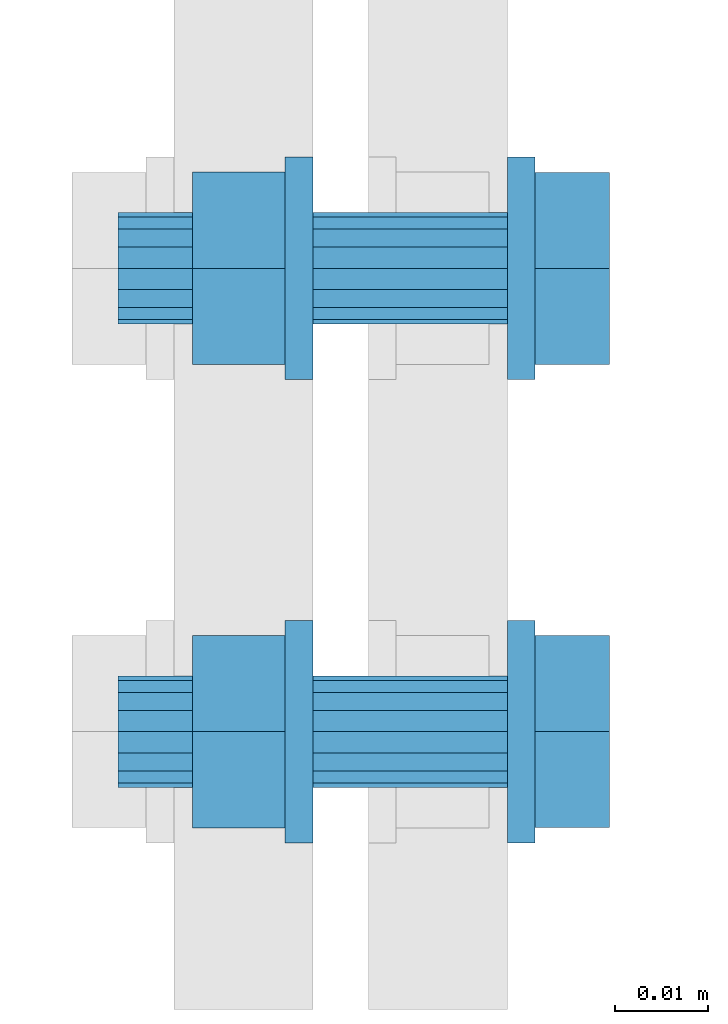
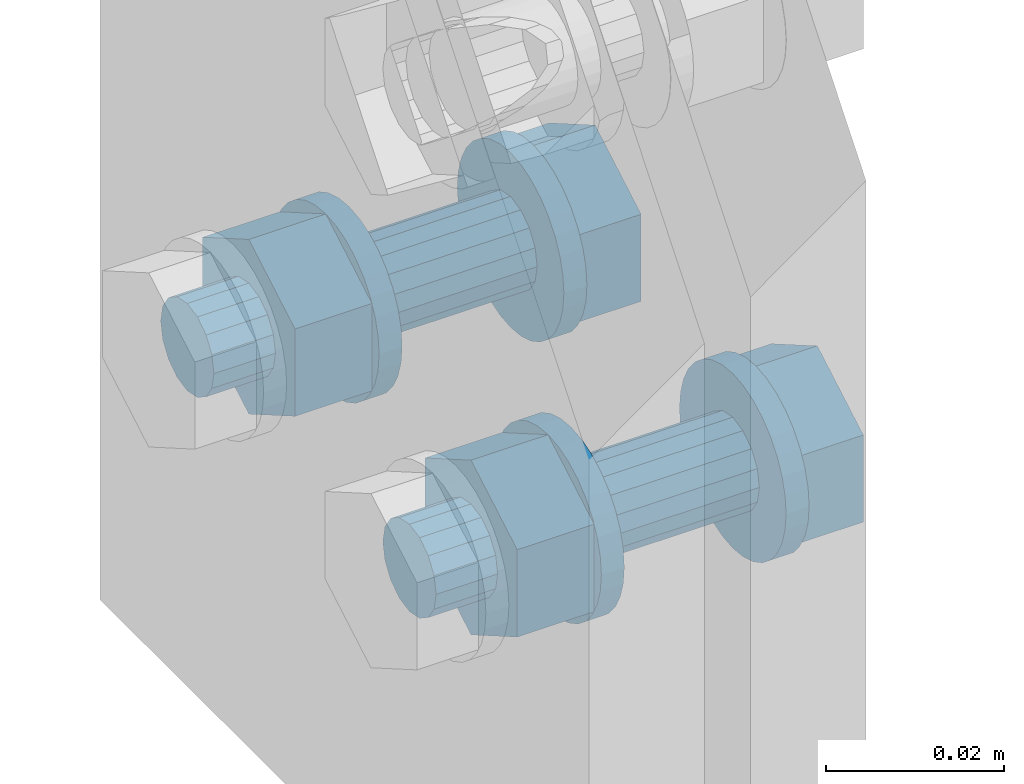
# One storey, part 7 of 13: 2 mechanical fasteners.
"""IFC4X3_ADD2 building model written with IfcOpenShell, lengths in millimetres."""

from ifc_helpers import new_model, entity, si_unit, converted_unit, derived_unit, direction, origin, place, context, project, spatial, faceted_brep, element, save


model = new_model("IFC4X3_ADD2")

# Units and contexts
model_context = context("Model", 3, precision=0.01, world=origin(), true_north=direction((6.123233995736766e-17, 1.0)))
plan_context = context("Plan", 3, precision=0.01, world=origin(), true_north=direction((6.123233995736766e-17, 1.0)))
ifc_project = project(units=[si_unit("LENGTHUNIT", "METRE", prefix="MILLI"), converted_unit("PLANEANGLEUNIT", "DEGREE", entity("IfcPlaneAngleMeasure", 0.017453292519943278), si_unit("PLANEANGLEUNIT", "RADIAN"), dimensions=[0, 0, 0, 0, 0, 0, 0]), si_unit("AREAUNIT", "SQUARE_METRE"), si_unit("VOLUMEUNIT", "CUBIC_METRE"), derived_unit("THERMALTRANSMITTANCEUNIT", [(si_unit("MASSUNIT", "GRAM", prefix="KILO"), 1), (si_unit("THERMODYNAMICTEMPERATUREUNIT", "KELVIN"), -1), (si_unit("TIMEUNIT", "SECOND"), -3)]), derived_unit("USERDEFINED", [(si_unit("MASSUNIT", "GRAM", prefix="KILO"), 1), (si_unit("THERMODYNAMICTEMPERATUREUNIT", "KELVIN"), -1), (si_unit("TIMEUNIT", "SECOND"), -2)]), derived_unit("THERMALRESISTANCEUNIT", [(si_unit("MASSUNIT", "GRAM", prefix="KILO"), -1), (si_unit("TIMEUNIT", "SECOND"), 3), (si_unit("THERMODYNAMICTEMPERATUREUNIT", "KELVIN"), 1)]), si_unit("MASSUNIT", "GRAM", prefix="KILO"), derived_unit("MOMENTOFINERTIAUNIT", [(si_unit("LENGTHUNIT", "METRE"), 4)]), derived_unit("LINEARFORCEUNIT", [(si_unit("MASSUNIT", "GRAM", prefix="KILO"), 1), (si_unit("TIMEUNIT", "SECOND"), -2)]), derived_unit("WARPINGCONSTANTUNIT", [(si_unit("LENGTHUNIT", "METRE"), 6)]), si_unit("PRESSUREUNIT", "PASCAL"), derived_unit("MASSDENSITYUNIT", [(si_unit("MASSUNIT", "GRAM", prefix="KILO"), 1), (si_unit("LENGTHUNIT", "METRE"), -3)]), derived_unit("MODULUSOFELASTICITYUNIT", [(si_unit("MASSUNIT", "GRAM", prefix="KILO"), 1), (si_unit("TIMEUNIT", "SECOND"), -2), (si_unit("LENGTHUNIT", "METRE"), -1)]), derived_unit("THERMALEXPANSIONCOEFFICIENTUNIT", [(si_unit("THERMODYNAMICTEMPERATUREUNIT", "KELVIN"), -1)]), derived_unit("VAPORPERMEABILITYUNIT", [(si_unit("LENGTHUNIT", "METRE"), -1), (si_unit("TIMEUNIT", "SECOND"), 1)]), derived_unit("USERDEFINED", [(si_unit("MASSUNIT", "GRAM", prefix="KILO"), 1), (si_unit("TIMEUNIT", "SECOND"), -3), (si_unit("LENGTHUNIT", "METRE"), 3), (si_unit("ELECTRICCURRENTUNIT", "AMPERE"), -2)]), derived_unit("SPECIFICHEATCAPACITYUNIT", [(si_unit("THERMODYNAMICTEMPERATUREUNIT", "KELVIN"), -1), (si_unit("TIMEUNIT", "SECOND"), -2), (si_unit("LENGTHUNIT", "METRE"), 2)]), derived_unit("THERMALCONDUCTANCEUNIT", [(si_unit("MASSUNIT", "GRAM", prefix="KILO"), 1), (si_unit("THERMODYNAMICTEMPERATUREUNIT", "KELVIN"), -1), (si_unit("TIMEUNIT", "SECOND"), -3), (si_unit("LENGTHUNIT", "METRE"), 1)])], contexts=[model_context, plan_context])

# Site, building, storey
site_placement = place(None, origin())
site = spatial("IfcSite", under=ifc_project, at=site_placement, Name="Default", CompositionType="ELEMENT")
building_placement = place(site_placement, origin())
building = spatial("IfcBuilding", under=site, at=building_placement, Name="Complex structure", CompositionType="ELEMENT")
storey_placement = place(building_placement, origin())
storey = spatial("IfcBuildingStorey", under=building, at=storey_placement, Name="Level 00", CompositionType="ELEMENT", Elevation=0.0)

# Mechanical fasteners
mechanical_fastener_1_placement = place(storey_placement, origin())
element("IfcMechanicalFastener", 1, at=mechanical_fastener_1_placement, inside=storey, ObjectType="Bolt#5", NominalDiameter=12.0, NominalLength=45.0, context=model_context, shape_type="Brep", body=[
    faceted_brep([(-9124.221550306, -1269.866703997, 2900.0), (-9127.221550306, -1269.866703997, 2900.0), (-9127.221550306, -1269.636127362, 2897.658916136), (-9124.221550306, -1269.636127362, 2897.658916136), (-9127.221550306, -1268.953258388, 2895.407798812), (-9124.221550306, -1268.953258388, 2895.407798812), (-9127.221550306, -1267.844339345, 2893.333157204), (-9124.221550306, -1267.844339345, 2893.333157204), (-9127.221550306, -1266.351985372, 2891.514718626), (-9124.221550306, -1266.351985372, 2891.514718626), (-9127.221550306, -1264.533546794, 2890.022364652), (-9124.221550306, -1264.533546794, 2890.022364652), (-9127.221550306, -1262.458905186, 2888.91344561), (-9124.221550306, -1262.458905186, 2888.91344561), (-9127.221550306, -1260.207787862, 2888.230576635), (-9124.221550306, -1260.207787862, 2888.230576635), (-9127.221550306, -1257.866703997, 2888.0), (-9124.221550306, -1257.866703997, 2888.0), (-9127.221550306, -1255.525620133, 2888.230576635), (-9124.221550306, -1255.525620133, 2888.230576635), (-9127.221550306, -1253.274502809, 2888.91344561), (-9124.221550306, -1253.274502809, 2888.91344561), (-9127.221550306, -1251.199861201, 2890.022364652), (-9124.221550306, -1251.199861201, 2890.022364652), (-9127.221550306, -1249.381422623, 2891.514718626), (-9124.221550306, -1249.381422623, 2891.514718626), (-9127.221550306, -1247.88906865, 2893.333157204), (-9124.221550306, -1247.88906865, 2893.333157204), (-9127.221550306, -1246.780149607, 2895.407798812), (-9124.221550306, -1246.780149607, 2895.407798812), (-9127.221550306, -1246.097280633, 2897.658916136), (-9124.221550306, -1246.097280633, 2897.658916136), (-9127.221550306, -1245.866703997, 2900.0), (-9124.221550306, -1245.866703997, 2900.0), (-9127.221550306, -1246.097280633, 2902.341083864), (-9124.221550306, -1246.097280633, 2902.341083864), (-9127.221550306, -1246.780149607, 2904.592201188), (-9124.221550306, -1246.780149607, 2904.592201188), (-9127.221550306, -1247.88906865, 2906.666842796), (-9124.221550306, -1247.88906865, 2906.666842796), (-9127.221550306, -1249.381422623, 2908.485281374), (-9124.221550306, -1249.381422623, 2908.485281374), (-9127.221550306, -1251.199861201, 2909.977635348), (-9124.221550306, -1251.199861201, 2909.977635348), (-9127.221550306, -1253.274502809, 2911.08655439), (-9124.221550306, -1253.274502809, 2911.08655439), (-9127.221550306, -1255.525620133, 2911.769423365), (-9124.221550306, -1255.525620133, 2911.769423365), (-9127.221550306, -1257.866703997, 2912.0), (-9124.221550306, -1257.866703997, 2912.0), (-9127.221550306, -1260.207787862, 2911.769423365), (-9124.221550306, -1260.207787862, 2911.769423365), (-9127.221550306, -1262.458905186, 2911.08655439), (-9124.221550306, -1262.458905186, 2911.08655439), (-9127.221550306, -1264.533546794, 2909.977635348), (-9124.221550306, -1264.533546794, 2909.977635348), (-9127.221550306, -1266.351985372, 2908.485281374), (-9124.221550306, -1266.351985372, 2908.485281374), (-9127.221550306, -1267.844339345, 2906.666842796), (-9124.221550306, -1267.844339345, 2906.666842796), (-9127.221550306, -1268.953258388, 2904.592201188), (-9124.221550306, -1268.953258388, 2904.592201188), (-9127.221550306, -1269.636127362, 2902.341083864), (-9124.221550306, -1269.636127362, 2902.341083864)], [[[0, 1, 2, 3]], [[3, 2, 4, 5]], [[5, 4, 6, 7]], [[7, 6, 8, 9]], [[9, 8, 10, 11]], [[11, 10, 12, 13]], [[13, 12, 14, 15]], [[15, 14, 16, 17]], [[17, 16, 18, 19]], [[19, 18, 20, 21]], [[21, 20, 22, 23]], [[23, 22, 24, 25]], [[25, 24, 26, 27]], [[27, 26, 28, 29]], [[29, 28, 30, 31]], [[31, 30, 32, 33]], [[33, 32, 34, 35]], [[35, 34, 36, 37]], [[37, 36, 38, 39]], [[39, 38, 40, 41]], [[41, 40, 42, 43]], [[43, 42, 44, 45]], [[45, 44, 46, 47]], [[47, 46, 48, 49]], [[49, 48, 50, 51]], [[51, 50, 52, 53]], [[53, 52, 54, 55]], [[55, 54, 56, 57]], [[57, 56, 58, 59]], [[59, 58, 60, 61]], [[61, 60, 62, 63]], [[63, 62, 1, 0]], [[0, 3, 5, 7, 9, 11, 13, 15, 17, 19, 21, 23, 25, 27, 29, 31, 33, 35, 37, 39, 41, 43, 45, 47, 49, 51, 53, 55, 57, 59, 61, 63]], [[1, 62, 60, 58, 56, 54, 52, 50, 48, 46, 44, 42, 40, 38, 36, 34, 32, 30, 28, 26, 24, 22, 20, 18, 16, 14, 12, 10, 8, 6, 4, 2]]]),
    faceted_brep([(-9124.221550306, -1247.513370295, 2894.0225), (-9116.221550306, -1247.513370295, 2894.0225), (-9116.221550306, -1257.866703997, 2888.045), (-9124.221550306, -1257.866703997, 2888.045), (-9116.221550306, -1268.2200377, 2894.0225), (-9124.221550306, -1268.2200377, 2894.0225), (-9116.221550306, -1268.2200377, 2905.9775), (-9124.221550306, -1268.2200377, 2905.9775), (-9116.221550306, -1257.866703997, 2911.955), (-9124.221550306, -1257.866703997, 2911.955), (-9116.221550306, -1247.513370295, 2905.9775), (-9124.221550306, -1247.513370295, 2905.9775)], [[[0, 1, 2, 3]], [[3, 2, 4, 5]], [[5, 4, 6, 7]], [[7, 6, 8, 9]], [[9, 8, 10, 11]], [[11, 10, 1, 0]], [[4, 2, 1, 10, 8, 6]], [[0, 3, 5, 7, 9, 11]]]),
    faceted_brep([(-9127.221550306, -1263.866703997, 2900.0), (-9148.221550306, -1263.866703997, 2900.0), (-9148.221550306, -1263.409981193, 2897.703899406), (-9127.221550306, -1263.409981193, 2897.703899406), (-9148.221550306, -1262.109344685, 2895.757359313), (-9127.221550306, -1262.109344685, 2895.757359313), (-9148.221550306, -1260.162804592, 2894.456722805), (-9127.221550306, -1260.162804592, 2894.456722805), (-9148.221550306, -1257.866703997, 2894.0), (-9127.221550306, -1257.866703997, 2894.0), (-9148.221550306, -1255.570603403, 2894.456722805), (-9127.221550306, -1255.570603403, 2894.456722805), (-9148.221550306, -1253.62406331, 2895.757359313), (-9127.221550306, -1253.62406331, 2895.757359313), (-9148.221550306, -1252.323426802, 2897.703899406), (-9127.221550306, -1252.323426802, 2897.703899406), (-9148.221550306, -1251.866703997, 2900.0), (-9127.221550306, -1251.866703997, 2900.0), (-9148.221550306, -1252.323426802, 2902.296100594), (-9127.221550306, -1252.323426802, 2902.296100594), (-9148.221550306, -1253.62406331, 2904.242640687), (-9127.221550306, -1253.62406331, 2904.242640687), (-9148.221550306, -1255.570603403, 2905.543277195), (-9127.221550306, -1255.570603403, 2905.543277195), (-9148.221550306, -1257.866703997, 2906.0), (-9127.221550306, -1257.866703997, 2906.0), (-9148.221550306, -1260.162804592, 2905.543277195), (-9127.221550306, -1260.162804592, 2905.543277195), (-9148.221550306, -1262.109344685, 2904.242640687), (-9127.221550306, -1262.109344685, 2904.242640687), (-9148.221550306, -1263.409981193, 2902.296100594), (-9127.221550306, -1263.409981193, 2902.296100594)], [[[0, 1, 2, 3]], [[3, 2, 4, 5]], [[5, 4, 6, 7]], [[7, 6, 8, 9]], [[9, 8, 10, 11]], [[11, 10, 12, 13]], [[13, 12, 14, 15]], [[15, 14, 16, 17]], [[17, 16, 18, 19]], [[19, 18, 20, 21]], [[21, 20, 22, 23]], [[23, 22, 24, 25]], [[25, 24, 26, 27]], [[27, 26, 28, 29]], [[29, 28, 30, 31]], [[31, 30, 1, 0]], [[0, 3, 5, 7, 9, 11, 13, 15, 17, 19, 21, 23, 25, 27, 29, 31]], [[1, 30, 28, 26, 24, 22, 20, 18, 16, 14, 12, 10, 8, 6, 4, 2]]]),
    faceted_brep([(-9148.221550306, -1269.866703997, 2900.0), (-9151.221550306, -1269.866703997, 2900.0), (-9151.221550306, -1269.636127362, 2897.658916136), (-9148.221550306, -1269.636127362, 2897.658916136), (-9151.221550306, -1268.953258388, 2895.407798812), (-9148.221550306, -1268.953258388, 2895.407798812), (-9151.221550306, -1267.844339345, 2893.333157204), (-9148.221550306, -1267.844339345, 2893.333157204), (-9151.221550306, -1266.351985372, 2891.514718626), (-9148.221550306, -1266.351985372, 2891.514718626), (-9151.221550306, -1264.533546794, 2890.022364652), (-9148.221550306, -1264.533546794, 2890.022364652), (-9151.221550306, -1262.458905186, 2888.91344561), (-9148.221550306, -1262.458905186, 2888.91344561), (-9151.221550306, -1260.207787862, 2888.230576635), (-9148.221550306, -1260.207787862, 2888.230576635), (-9151.221550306, -1257.866703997, 2888.0), (-9148.221550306, -1257.866703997, 2888.0), (-9151.221550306, -1255.525620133, 2888.230576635), (-9148.221550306, -1255.525620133, 2888.230576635), (-9151.221550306, -1253.274502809, 2888.91344561), (-9148.221550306, -1253.274502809, 2888.91344561), (-9151.221550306, -1251.199861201, 2890.022364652), (-9148.221550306, -1251.199861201, 2890.022364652), (-9151.221550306, -1249.381422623, 2891.514718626), (-9148.221550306, -1249.381422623, 2891.514718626), (-9151.221550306, -1247.88906865, 2893.333157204), (-9148.221550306, -1247.88906865, 2893.333157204), (-9151.221550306, -1246.780149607, 2895.407798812), (-9148.221550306, -1246.780149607, 2895.407798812), (-9151.221550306, -1246.097280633, 2897.658916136), (-9148.221550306, -1246.097280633, 2897.658916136), (-9151.221550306, -1245.866703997, 2900.0), (-9148.221550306, -1245.866703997, 2900.0), (-9151.221550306, -1246.097280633, 2902.341083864), (-9148.221550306, -1246.097280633, 2902.341083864), (-9151.221550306, -1246.780149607, 2904.592201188), (-9148.221550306, -1246.780149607, 2904.592201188), (-9151.221550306, -1247.88906865, 2906.666842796), (-9148.221550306, -1247.88906865, 2906.666842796), (-9151.221550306, -1249.381422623, 2908.485281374), (-9148.221550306, -1249.381422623, 2908.485281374), (-9151.221550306, -1251.199861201, 2909.977635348), (-9148.221550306, -1251.199861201, 2909.977635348), (-9151.221550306, -1253.274502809, 2911.08655439), (-9148.221550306, -1253.274502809, 2911.08655439), (-9151.221550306, -1255.525620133, 2911.769423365), (-9148.221550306, -1255.525620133, 2911.769423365), (-9151.221550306, -1257.866703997, 2912.0), (-9148.221550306, -1257.866703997, 2912.0), (-9151.221550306, -1260.207787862, 2911.769423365), (-9148.221550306, -1260.207787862, 2911.769423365), (-9151.221550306, -1262.458905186, 2911.08655439), (-9148.221550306, -1262.458905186, 2911.08655439), (-9151.221550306, -1264.533546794, 2909.977635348), (-9148.221550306, -1264.533546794, 2909.977635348), (-9151.221550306, -1266.351985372, 2908.485281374), (-9148.221550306, -1266.351985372, 2908.485281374), (-9151.221550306, -1267.844339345, 2906.666842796), (-9148.221550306, -1267.844339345, 2906.666842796), (-9151.221550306, -1268.953258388, 2904.592201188), (-9148.221550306, -1268.953258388, 2904.592201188), (-9151.221550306, -1269.636127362, 2902.341083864), (-9148.221550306, -1269.636127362, 2902.341083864)], [[[0, 1, 2, 3]], [[3, 2, 4, 5]], [[5, 4, 6, 7]], [[7, 6, 8, 9]], [[9, 8, 10, 11]], [[11, 10, 12, 13]], [[13, 12, 14, 15]], [[15, 14, 16, 17]], [[17, 16, 18, 19]], [[19, 18, 20, 21]], [[21, 20, 22, 23]], [[23, 22, 24, 25]], [[25, 24, 26, 27]], [[27, 26, 28, 29]], [[29, 28, 30, 31]], [[31, 30, 32, 33]], [[33, 32, 34, 35]], [[35, 34, 36, 37]], [[37, 36, 38, 39]], [[39, 38, 40, 41]], [[41, 40, 42, 43]], [[43, 42, 44, 45]], [[45, 44, 46, 47]], [[47, 46, 48, 49]], [[49, 48, 50, 51]], [[51, 50, 52, 53]], [[53, 52, 54, 55]], [[55, 54, 56, 57]], [[57, 56, 58, 59]], [[59, 58, 60, 61]], [[61, 60, 62, 63]], [[63, 62, 1, 0]], [[0, 3, 5, 7, 9, 11, 13, 15, 17, 19, 21, 23, 25, 27, 29, 31, 33, 35, 37, 39, 41, 43, 45, 47, 49, 51, 53, 55, 57, 59, 61, 63]], [[1, 62, 60, 58, 56, 54, 52, 50, 48, 46, 44, 42, 40, 38, 36, 34, 32, 30, 28, 26, 24, 22, 20, 18, 16, 14, 12, 10, 8, 6, 4, 2]]]),
    faceted_brep([(-9161.221550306, -1247.474399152, 2894.0), (-9151.221550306, -1247.474399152, 2894.0), (-9151.221550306, -1257.866703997, 2888.0), (-9161.221550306, -1257.866703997, 2888.0), (-9151.221550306, -1268.259008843, 2894.0), (-9161.221550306, -1268.259008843, 2894.0), (-9151.221550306, -1268.259008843, 2906.0), (-9161.221550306, -1268.259008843, 2906.0), (-9151.221550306, -1257.866703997, 2912.0), (-9161.221550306, -1257.866703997, 2912.0), (-9151.221550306, -1247.474399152, 2906.0), (-9161.221550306, -1247.474399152, 2906.0)], [[[0, 1, 2, 3]], [[3, 2, 4, 5]], [[5, 4, 6, 7]], [[7, 6, 8, 9]], [[9, 8, 10, 11]], [[11, 10, 1, 0]], [[4, 2, 1, 10, 8, 6]], [[0, 3, 5, 7, 9, 11]]]),
    faceted_brep([(-9161.221550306, -1263.866703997, 2900.0), (-9169.221550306, -1263.866703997, 2900.0), (-9169.221550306, -1263.409981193, 2897.703899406), (-9161.221550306, -1263.409981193, 2897.703899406), (-9169.221550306, -1262.109344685, 2895.757359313), (-9161.221550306, -1262.109344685, 2895.757359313), (-9169.221550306, -1260.162804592, 2894.456722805), (-9161.221550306, -1260.162804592, 2894.456722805), (-9169.221550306, -1257.866703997, 2894.0), (-9161.221550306, -1257.866703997, 2894.0), (-9169.221550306, -1255.570603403, 2894.456722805), (-9161.221550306, -1255.570603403, 2894.456722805), (-9169.221550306, -1253.62406331, 2895.757359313), (-9161.221550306, -1253.62406331, 2895.757359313), (-9169.221550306, -1252.323426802, 2897.703899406), (-9161.221550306, -1252.323426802, 2897.703899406), (-9169.221550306, -1251.866703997, 2900.0), (-9161.221550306, -1251.866703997, 2900.0), (-9169.221550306, -1252.323426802, 2902.296100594), (-9161.221550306, -1252.323426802, 2902.296100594), (-9169.221550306, -1253.62406331, 2904.242640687), (-9161.221550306, -1253.62406331, 2904.242640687), (-9169.221550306, -1255.570603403, 2905.543277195), (-9161.221550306, -1255.570603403, 2905.543277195), (-9169.221550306, -1257.866703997, 2906.0), (-9161.221550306, -1257.866703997, 2906.0), (-9169.221550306, -1260.162804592, 2905.543277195), (-9161.221550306, -1260.162804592, 2905.543277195), (-9169.221550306, -1262.109344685, 2904.242640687), (-9161.221550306, -1262.109344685, 2904.242640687), (-9169.221550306, -1263.409981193, 2902.296100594), (-9161.221550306, -1263.409981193, 2902.296100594)], [[[0, 1, 2, 3]], [[3, 2, 4, 5]], [[5, 4, 6, 7]], [[7, 6, 8, 9]], [[9, 8, 10, 11]], [[11, 10, 12, 13]], [[13, 12, 14, 15]], [[15, 14, 16, 17]], [[17, 16, 18, 19]], [[19, 18, 20, 21]], [[21, 20, 22, 23]], [[23, 22, 24, 25]], [[25, 24, 26, 27]], [[27, 26, 28, 29]], [[29, 28, 30, 31]], [[31, 30, 1, 0]], [[0, 3, 5, 7, 9, 11, 13, 15, 17, 19, 21, 23, 25, 27, 29, 31]], [[1, 30, 28, 26, 24, 22, 20, 18, 16, 14, 12, 10, 8, 6, 4, 2]]]),
])
mechanical_fastener_2_placement = place(storey_placement, origin())
element("IfcMechanicalFastener", 2, at=mechanical_fastener_2_placement, inside=storey, ObjectType="Bolt#6", NominalDiameter=12.0, NominalLength=45.0, context=model_context, shape_type="Brep", body=[
    faceted_brep([(-9124.221550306, -1295.866703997, 2900.0), (-9127.221550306, -1295.866703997, 2900.0), (-9127.221550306, -1296.097280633, 2902.341083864), (-9124.221550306, -1296.097280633, 2902.341083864), (-9127.221550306, -1296.780149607, 2904.592201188), (-9124.221550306, -1296.780149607, 2904.592201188), (-9127.221550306, -1297.88906865, 2906.666842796), (-9124.221550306, -1297.88906865, 2906.666842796), (-9127.221550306, -1299.381422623, 2908.485281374), (-9124.221550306, -1299.381422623, 2908.485281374), (-9127.221550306, -1301.199861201, 2909.977635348), (-9124.221550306, -1301.199861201, 2909.977635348), (-9127.221550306, -1303.274502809, 2911.08655439), (-9124.221550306, -1303.274502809, 2911.08655439), (-9127.221550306, -1305.525620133, 2911.769423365), (-9124.221550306, -1305.525620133, 2911.769423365), (-9127.221550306, -1307.866703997, 2912.0), (-9124.221550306, -1307.866703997, 2912.0), (-9127.221550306, -1310.207787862, 2911.769423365), (-9124.221550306, -1310.207787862, 2911.769423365), (-9127.221550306, -1312.458905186, 2911.08655439), (-9124.221550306, -1312.458905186, 2911.08655439), (-9127.221550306, -1314.533546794, 2909.977635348), (-9124.221550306, -1314.533546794, 2909.977635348), (-9127.221550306, -1316.351985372, 2908.485281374), (-9124.221550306, -1316.351985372, 2908.485281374), (-9127.221550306, -1317.844339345, 2906.666842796), (-9124.221550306, -1317.844339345, 2906.666842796), (-9127.221550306, -1318.953258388, 2904.592201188), (-9124.221550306, -1318.953258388, 2904.592201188), (-9127.221550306, -1319.636127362, 2902.341083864), (-9124.221550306, -1319.636127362, 2902.341083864), (-9127.221550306, -1319.866703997, 2900.0), (-9124.221550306, -1319.866703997, 2900.0), (-9127.221550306, -1319.636127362, 2897.658916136), (-9124.221550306, -1319.636127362, 2897.658916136), (-9127.221550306, -1318.953258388, 2895.407798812), (-9124.221550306, -1318.953258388, 2895.407798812), (-9127.221550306, -1317.844339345, 2893.333157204), (-9124.221550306, -1317.844339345, 2893.333157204), (-9127.221550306, -1316.351985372, 2891.514718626), (-9124.221550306, -1316.351985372, 2891.514718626), (-9127.221550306, -1314.533546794, 2890.022364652), (-9124.221550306, -1314.533546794, 2890.022364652), (-9127.221550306, -1312.458905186, 2888.91344561), (-9124.221550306, -1312.458905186, 2888.91344561), (-9127.221550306, -1310.207787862, 2888.230576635), (-9124.221550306, -1310.207787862, 2888.230576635), (-9127.221550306, -1307.866703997, 2888.0), (-9124.221550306, -1307.866703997, 2888.0), (-9127.221550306, -1305.525620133, 2888.230576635), (-9124.221550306, -1305.525620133, 2888.230576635), (-9127.221550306, -1303.274502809, 2888.91344561), (-9124.221550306, -1303.274502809, 2888.91344561), (-9127.221550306, -1301.199861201, 2890.022364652), (-9124.221550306, -1301.199861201, 2890.022364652), (-9127.221550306, -1299.381422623, 2891.514718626), (-9124.221550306, -1299.381422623, 2891.514718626), (-9127.221550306, -1297.88906865, 2893.333157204), (-9124.221550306, -1297.88906865, 2893.333157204), (-9127.221550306, -1296.780149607, 2895.407798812), (-9124.221550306, -1296.780149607, 2895.407798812), (-9127.221550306, -1296.097280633, 2897.658916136), (-9124.221550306, -1296.097280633, 2897.658916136)], [[[0, 1, 2, 3]], [[3, 2, 4, 5]], [[5, 4, 6, 7]], [[7, 6, 8, 9]], [[9, 8, 10, 11]], [[11, 10, 12, 13]], [[13, 12, 14, 15]], [[15, 14, 16, 17]], [[17, 16, 18, 19]], [[19, 18, 20, 21]], [[21, 20, 22, 23]], [[23, 22, 24, 25]], [[25, 24, 26, 27]], [[27, 26, 28, 29]], [[29, 28, 30, 31]], [[31, 30, 32, 33]], [[33, 32, 34, 35]], [[35, 34, 36, 37]], [[37, 36, 38, 39]], [[39, 38, 40, 41]], [[41, 40, 42, 43]], [[43, 42, 44, 45]], [[45, 44, 46, 47]], [[47, 46, 48, 49]], [[49, 48, 50, 51]], [[51, 50, 52, 53]], [[53, 52, 54, 55]], [[55, 54, 56, 57]], [[57, 56, 58, 59]], [[59, 58, 60, 61]], [[61, 60, 62, 63]], [[63, 62, 1, 0]], [[0, 3, 5, 7, 9, 11, 13, 15, 17, 19, 21, 23, 25, 27, 29, 31, 33, 35, 37, 39, 41, 43, 45, 47, 49, 51, 53, 55, 57, 59, 61, 63]], [[1, 62, 60, 58, 56, 54, 52, 50, 48, 46, 44, 42, 40, 38, 36, 34, 32, 30, 28, 26, 24, 22, 20, 18, 16, 14, 12, 10, 8, 6, 4, 2]]]),
    faceted_brep([(-9124.221550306, -1318.2200377, 2905.9775), (-9116.221550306, -1318.2200377, 2905.9775), (-9116.221550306, -1307.866703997, 2911.955), (-9124.221550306, -1307.866703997, 2911.955), (-9116.221550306, -1297.513370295, 2905.9775), (-9124.221550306, -1297.513370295, 2905.9775), (-9116.221550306, -1297.513370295, 2894.0225), (-9124.221550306, -1297.513370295, 2894.0225), (-9116.221550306, -1307.866703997, 2888.045), (-9124.221550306, -1307.866703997, 2888.045), (-9116.221550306, -1318.2200377, 2894.0225), (-9124.221550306, -1318.2200377, 2894.0225)], [[[0, 1, 2, 3]], [[3, 2, 4, 5]], [[5, 4, 6, 7]], [[7, 6, 8, 9]], [[9, 8, 10, 11]], [[11, 10, 1, 0]], [[4, 2, 1, 10, 8, 6]], [[0, 3, 5, 7, 9, 11]]]),
    faceted_brep([(-9127.221550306, -1301.866703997, 2900.0), (-9148.221550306, -1301.866703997, 2900.0), (-9148.221550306, -1302.323426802, 2902.296100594), (-9127.221550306, -1302.323426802, 2902.296100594), (-9148.221550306, -1303.62406331, 2904.242640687), (-9127.221550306, -1303.62406331, 2904.242640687), (-9148.221550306, -1305.570603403, 2905.543277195), (-9127.221550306, -1305.570603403, 2905.543277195), (-9148.221550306, -1307.866703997, 2906.0), (-9127.221550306, -1307.866703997, 2906.0), (-9148.221550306, -1310.162804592, 2905.543277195), (-9127.221550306, -1310.162804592, 2905.543277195), (-9148.221550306, -1312.109344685, 2904.242640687), (-9127.221550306, -1312.109344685, 2904.242640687), (-9148.221550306, -1313.409981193, 2902.296100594), (-9127.221550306, -1313.409981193, 2902.296100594), (-9148.221550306, -1313.866703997, 2900.0), (-9127.221550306, -1313.866703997, 2900.0), (-9148.221550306, -1313.409981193, 2897.703899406), (-9127.221550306, -1313.409981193, 2897.703899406), (-9148.221550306, -1312.109344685, 2895.757359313), (-9127.221550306, -1312.109344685, 2895.757359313), (-9148.221550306, -1310.162804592, 2894.456722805), (-9127.221550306, -1310.162804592, 2894.456722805), (-9148.221550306, -1307.866703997, 2894.0), (-9127.221550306, -1307.866703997, 2894.0), (-9148.221550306, -1305.570603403, 2894.456722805), (-9127.221550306, -1305.570603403, 2894.456722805), (-9148.221550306, -1303.62406331, 2895.757359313), (-9127.221550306, -1303.62406331, 2895.757359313), (-9148.221550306, -1302.323426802, 2897.703899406), (-9127.221550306, -1302.323426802, 2897.703899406)], [[[0, 1, 2, 3]], [[3, 2, 4, 5]], [[5, 4, 6, 7]], [[7, 6, 8, 9]], [[9, 8, 10, 11]], [[11, 10, 12, 13]], [[13, 12, 14, 15]], [[15, 14, 16, 17]], [[17, 16, 18, 19]], [[19, 18, 20, 21]], [[21, 20, 22, 23]], [[23, 22, 24, 25]], [[25, 24, 26, 27]], [[27, 26, 28, 29]], [[29, 28, 30, 31]], [[31, 30, 1, 0]], [[0, 3, 5, 7, 9, 11, 13, 15, 17, 19, 21, 23, 25, 27, 29, 31]], [[1, 30, 28, 26, 24, 22, 20, 18, 16, 14, 12, 10, 8, 6, 4, 2]]]),
    faceted_brep([(-9148.221550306, -1295.866703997, 2900.0), (-9151.221550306, -1295.866703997, 2900.0), (-9151.221550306, -1296.097280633, 2902.341083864), (-9148.221550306, -1296.097280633, 2902.341083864), (-9151.221550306, -1296.780149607, 2904.592201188), (-9148.221550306, -1296.780149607, 2904.592201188), (-9151.221550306, -1297.88906865, 2906.666842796), (-9148.221550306, -1297.88906865, 2906.666842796), (-9151.221550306, -1299.381422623, 2908.485281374), (-9148.221550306, -1299.381422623, 2908.485281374), (-9151.221550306, -1301.199861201, 2909.977635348), (-9148.221550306, -1301.199861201, 2909.977635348), (-9151.221550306, -1303.274502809, 2911.08655439), (-9148.221550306, -1303.274502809, 2911.08655439), (-9151.221550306, -1305.525620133, 2911.769423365), (-9148.221550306, -1305.525620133, 2911.769423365), (-9151.221550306, -1307.866703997, 2912.0), (-9148.221550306, -1307.866703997, 2912.0), (-9151.221550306, -1310.207787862, 2911.769423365), (-9148.221550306, -1310.207787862, 2911.769423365), (-9151.221550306, -1312.458905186, 2911.08655439), (-9148.221550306, -1312.458905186, 2911.08655439), (-9151.221550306, -1314.533546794, 2909.977635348), (-9148.221550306, -1314.533546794, 2909.977635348), (-9151.221550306, -1316.351985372, 2908.485281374), (-9148.221550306, -1316.351985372, 2908.485281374), (-9151.221550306, -1317.844339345, 2906.666842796), (-9148.221550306, -1317.844339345, 2906.666842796), (-9151.221550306, -1318.953258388, 2904.592201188), (-9148.221550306, -1318.953258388, 2904.592201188), (-9151.221550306, -1319.636127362, 2902.341083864), (-9148.221550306, -1319.636127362, 2902.341083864), (-9151.221550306, -1319.866703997, 2900.0), (-9148.221550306, -1319.866703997, 2900.0), (-9151.221550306, -1319.636127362, 2897.658916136), (-9148.221550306, -1319.636127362, 2897.658916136), (-9151.221550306, -1318.953258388, 2895.407798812), (-9148.221550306, -1318.953258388, 2895.407798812), (-9151.221550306, -1317.844339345, 2893.333157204), (-9148.221550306, -1317.844339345, 2893.333157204), (-9151.221550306, -1316.351985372, 2891.514718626), (-9148.221550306, -1316.351985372, 2891.514718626), (-9151.221550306, -1314.533546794, 2890.022364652), (-9148.221550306, -1314.533546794, 2890.022364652), (-9151.221550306, -1312.458905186, 2888.91344561), (-9148.221550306, -1312.458905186, 2888.91344561), (-9151.221550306, -1310.207787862, 2888.230576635), (-9148.221550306, -1310.207787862, 2888.230576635), (-9151.221550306, -1307.866703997, 2888.0), (-9148.221550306, -1307.866703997, 2888.0), (-9151.221550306, -1305.525620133, 2888.230576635), (-9148.221550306, -1305.525620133, 2888.230576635), (-9151.221550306, -1303.274502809, 2888.91344561), (-9148.221550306, -1303.274502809, 2888.91344561), (-9151.221550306, -1301.199861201, 2890.022364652), (-9148.221550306, -1301.199861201, 2890.022364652), (-9151.221550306, -1299.381422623, 2891.514718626), (-9148.221550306, -1299.381422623, 2891.514718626), (-9151.221550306, -1297.88906865, 2893.333157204), (-9148.221550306, -1297.88906865, 2893.333157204), (-9151.221550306, -1296.780149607, 2895.407798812), (-9148.221550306, -1296.780149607, 2895.407798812), (-9151.221550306, -1296.097280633, 2897.658916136), (-9148.221550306, -1296.097280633, 2897.658916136)], [[[0, 1, 2, 3]], [[3, 2, 4, 5]], [[5, 4, 6, 7]], [[7, 6, 8, 9]], [[9, 8, 10, 11]], [[11, 10, 12, 13]], [[13, 12, 14, 15]], [[15, 14, 16, 17]], [[17, 16, 18, 19]], [[19, 18, 20, 21]], [[21, 20, 22, 23]], [[23, 22, 24, 25]], [[25, 24, 26, 27]], [[27, 26, 28, 29]], [[29, 28, 30, 31]], [[31, 30, 32, 33]], [[33, 32, 34, 35]], [[35, 34, 36, 37]], [[37, 36, 38, 39]], [[39, 38, 40, 41]], [[41, 40, 42, 43]], [[43, 42, 44, 45]], [[45, 44, 46, 47]], [[47, 46, 48, 49]], [[49, 48, 50, 51]], [[51, 50, 52, 53]], [[53, 52, 54, 55]], [[55, 54, 56, 57]], [[57, 56, 58, 59]], [[59, 58, 60, 61]], [[61, 60, 62, 63]], [[63, 62, 1, 0]], [[0, 3, 5, 7, 9, 11, 13, 15, 17, 19, 21, 23, 25, 27, 29, 31, 33, 35, 37, 39, 41, 43, 45, 47, 49, 51, 53, 55, 57, 59, 61, 63]], [[1, 62, 60, 58, 56, 54, 52, 50, 48, 46, 44, 42, 40, 38, 36, 34, 32, 30, 28, 26, 24, 22, 20, 18, 16, 14, 12, 10, 8, 6, 4, 2]]]),
    faceted_brep([(-9161.221550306, -1318.259008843, 2906.0), (-9151.221550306, -1318.259008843, 2906.0), (-9151.221550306, -1307.866703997, 2912.0), (-9161.221550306, -1307.866703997, 2912.0), (-9151.221550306, -1297.474399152, 2906.0), (-9161.221550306, -1297.474399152, 2906.0), (-9151.221550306, -1297.474399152, 2894.0), (-9161.221550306, -1297.474399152, 2894.0), (-9151.221550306, -1307.866703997, 2888.0), (-9161.221550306, -1307.866703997, 2888.0), (-9151.221550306, -1318.259008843, 2894.0), (-9161.221550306, -1318.259008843, 2894.0)], [[[0, 1, 2, 3]], [[3, 2, 4, 5]], [[5, 4, 6, 7]], [[7, 6, 8, 9]], [[9, 8, 10, 11]], [[11, 10, 1, 0]], [[4, 2, 1, 10, 8, 6]], [[0, 3, 5, 7, 9, 11]]]),
    faceted_brep([(-9161.221550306, -1301.866703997, 2900.0), (-9169.221550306, -1301.866703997, 2900.0), (-9169.221550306, -1302.323426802, 2902.296100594), (-9161.221550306, -1302.323426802, 2902.296100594), (-9169.221550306, -1303.62406331, 2904.242640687), (-9161.221550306, -1303.62406331, 2904.242640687), (-9169.221550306, -1305.570603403, 2905.543277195), (-9161.221550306, -1305.570603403, 2905.543277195), (-9169.221550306, -1307.866703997, 2906.0), (-9161.221550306, -1307.866703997, 2906.0), (-9169.221550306, -1310.162804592, 2905.543277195), (-9161.221550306, -1310.162804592, 2905.543277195), (-9169.221550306, -1312.109344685, 2904.242640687), (-9161.221550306, -1312.109344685, 2904.242640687), (-9169.221550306, -1313.409981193, 2902.296100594), (-9161.221550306, -1313.409981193, 2902.296100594), (-9169.221550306, -1313.866703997, 2900.0), (-9161.221550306, -1313.866703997, 2900.0), (-9169.221550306, -1313.409981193, 2897.703899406), (-9161.221550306, -1313.409981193, 2897.703899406), (-9169.221550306, -1312.109344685, 2895.757359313), (-9161.221550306, -1312.109344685, 2895.757359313), (-9169.221550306, -1310.162804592, 2894.456722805), (-9161.221550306, -1310.162804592, 2894.456722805), (-9169.221550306, -1307.866703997, 2894.0), (-9161.221550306, -1307.866703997, 2894.0), (-9169.221550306, -1305.570603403, 2894.456722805), (-9161.221550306, -1305.570603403, 2894.456722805), (-9169.221550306, -1303.62406331, 2895.757359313), (-9161.221550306, -1303.62406331, 2895.757359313), (-9169.221550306, -1302.323426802, 2897.703899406), (-9161.221550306, -1302.323426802, 2897.703899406)], [[[0, 1, 2, 3]], [[3, 2, 4, 5]], [[5, 4, 6, 7]], [[7, 6, 8, 9]], [[9, 8, 10, 11]], [[11, 10, 12, 13]], [[13, 12, 14, 15]], [[15, 14, 16, 17]], [[17, 16, 18, 19]], [[19, 18, 20, 21]], [[21, 20, 22, 23]], [[23, 22, 24, 25]], [[25, 24, 26, 27]], [[27, 26, 28, 29]], [[29, 28, 30, 31]], [[31, 30, 1, 0]], [[0, 3, 5, 7, 9, 11, 13, 15, 17, 19, 21, 23, 25, 27, 29, 31]], [[1, 30, 28, 26, 24, 22, 20, 18, 16, 14, 12, 10, 8, 6, 4, 2]]]),
])

save(model, "model.ifc")
